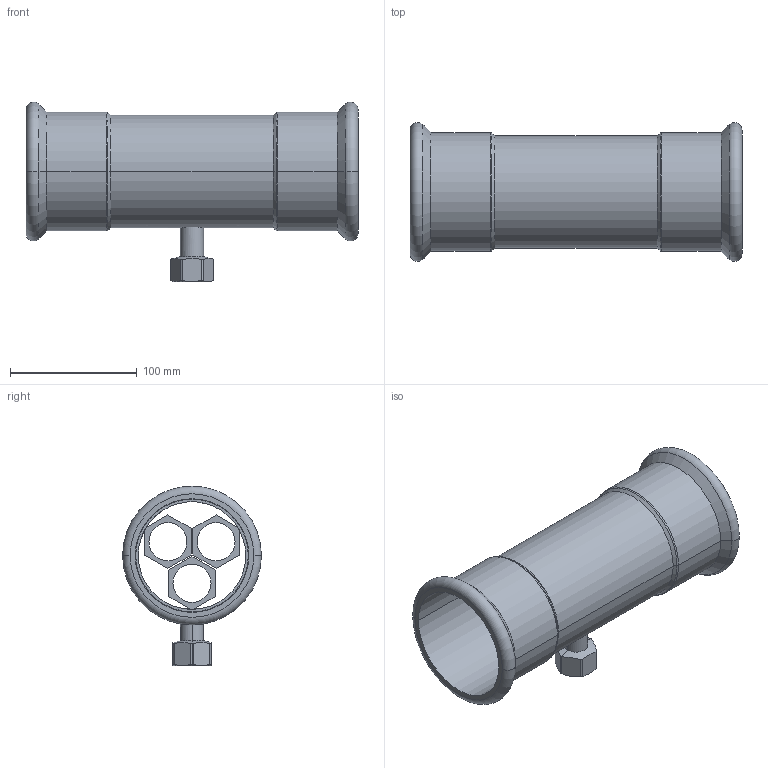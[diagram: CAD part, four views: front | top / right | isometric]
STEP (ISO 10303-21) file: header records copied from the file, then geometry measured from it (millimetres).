
FILE_DESCRIPTION(('OneSpaceDesigner STEP Export'),'2;1');
FILE_NAME('R2718 89xRp3-4x89.stp','2010-06-10T12:43:03',(''),(''),'OneSpace Designer STEP processor for AP214 (Solid Model)','OneSpace Modeling 15.00A 14-Mar-2007 (C) CoCreate Software GmbH','');
FILE_SCHEMA(('AUTOMOTIVE_DESIGN { 1 0 10303 214 1 1 1 1 }'));
Length unit declared in the file: millimetre
Products named in the file (2): R2718_89xRp3-4x89
Assembly tree (1 placements, depth 2):
  R2718_89xRp3-4x89
    R2718_89xRp3-4x89
Bounding box: 262 x 109.48 x 141.74 mm (x, y, z)
Volume: 225185.9 mm3; surface area: 174465.1 mm2
Topology: 1 solids, 1 shells, 186 faces, 473 edges, 304 vertices
Faces by surface type: plane 94, cylinder 64, cone 20, torus 8
Entity records: 6540 total; most frequent: CARTESIAN_POINT 2449, ORIENTED_EDGE 946, DIRECTION 689, EDGE_CURVE 473, VERTEX_POINT 304, VECTOR 287, LINE 287, EDGE_LOOP 221
